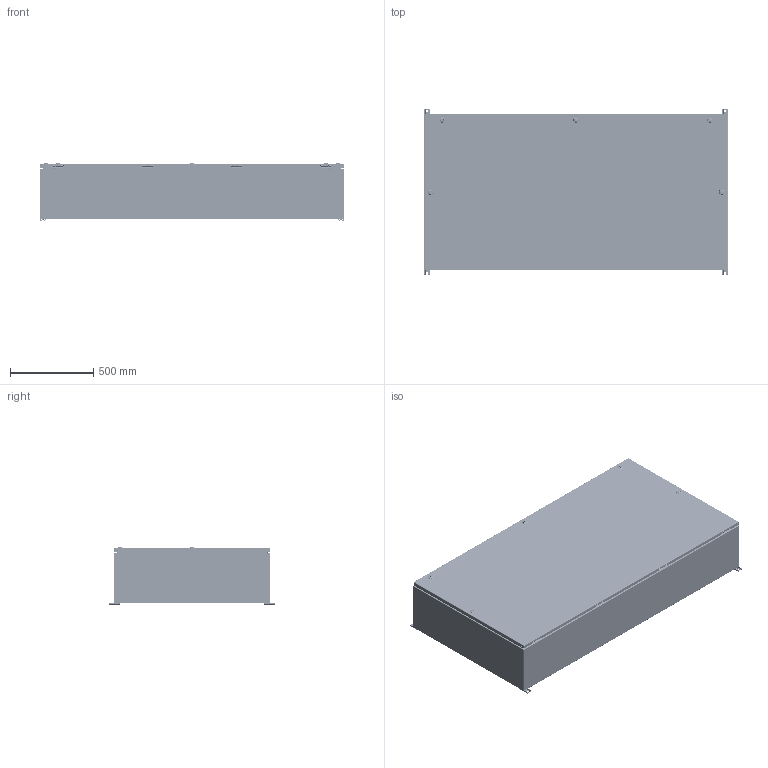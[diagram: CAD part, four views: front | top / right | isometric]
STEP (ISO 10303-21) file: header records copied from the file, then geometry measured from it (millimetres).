
FILE_DESCRIPTION(/* description */ ('1412BTSSCU 2000A - 4 Wires x 72" Assembly'),/* implementation_level */ '2;1');
FILE_NAME(/* name */ 'C:\Vault_Workspace\Inventor_Dwg\BoxCad\Result\1412BTSSCU062004DT\e-mail\3D\1412BTSSCU062004DT.stp',/* time_stamp */ '2022-11-04T15:20:29-04:00',/* author */ ('BoxCad'),/* organization */ (''),/* preprocessor_version */ 'ST-DEVELOPER v18.1',/* originating_system */ 'Autodesk Inventor 2020',/* authorisation */ '');
FILE_SCHEMA (('AUTOMOTIVE_DESIGN { 1 0 10303 214 3 1 1 }'));
Products named in the file (53): 1412BTSSCU062004DT; 1412BTSSCU062004DTB; 1412BTSSCU062004DTB-P; STK-Q-16020; 1412BTSSCU062004DTC; 1412BTSSCU062004DTC-P; 1412BTSSCU062004DTG; STK-Q-16095; STK-K-09850-1; STK-Q-33019; STK-Q-90111; STK-Q-40096; STK-Q-63412; STK-S-00100; STK-A-880SCQ4-SLSS6-1; STK-A-880SCQ4-SLSS6-2; STK-A-880SCQ4-SLSS6-3; STK-A-880SCQ4-SLSS6-4; STK-A-880SCQ4-SLSS6-5; STK-Q-70621; STK-Q-70631; STK-Q-78145; STK-Q-03200; STK-Q-78125; STK-Q-90390; STK-Q-78160; STK-Q-78141; 1412BTSSCU062004DTIP1; 1412BTSSCU062004DTIP1-P; STK-P-02401S; STK-Q-07610; STK-A-67400; STK-Q-67400; STK-G-22300; STK-Q-67420; STK-Q-40800; STK-Q-67430; STK-Q-07310; 1412BTSSCU062004DTBAR1-P; 1412BTSSCU062004DTBAR2-P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
Assembly tree (144 placements, depth 4):
  1412BTSSCU062004DT
    1412BTSSCU062004DTB
      1412BTSSCU062004DTB-P
      STK-Q-16095
      STK-Q-16020  x8
      STK-S-00100
    1412BTSSCU062004DTC
      1412BTSSCU062004DTC-P
      1412BTSSCU062004DTG
      STK-Q-16095
      STK-K-09850-1  x4
        STK-Q-33019
        STK-Q-90111
        STK-Q-40096
        STK-Q-63412
      STK-S-00100
      STK-A-880SCQ4-SLSS6-1
        STK-Q-70621
        STK-Q-70631
        STK-Q-78145
        STK-Q-03200
        STK-Q-78125
        STK-Q-90390
        STK-Q-78160
        STK-Q-78141
      STK-A-880SCQ4-SLSS6-2
        STK-Q-70621
        STK-Q-70631
        STK-Q-78145
        STK-Q-03200
        STK-Q-78125
        STK-Q-90390
        STK-Q-78160
        STK-Q-78141
      STK-A-880SCQ4-SLSS6-3
        STK-Q-70621
        STK-Q-70631
        STK-Q-78145
        STK-Q-03200
        STK-Q-78125
        STK-Q-90390
        STK-Q-78160
        STK-Q-78141
      STK-A-880SCQ4-SLSS6-4
        STK-Q-70621
        STK-Q-70631
        STK-Q-78145
        STK-Q-03200
        STK-Q-78125
        STK-Q-90390
        STK-Q-78160
        STK-Q-78141
      STK-A-880SCQ4-SLSS6-5
        STK-Q-70621
        STK-Q-70631
        STK-Q-78145
        STK-Q-03200
        STK-Q-78125
        STK-Q-90390
        STK-Q-78160
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Bounding box: 1828.8 x 996.95 x 345 mm (x, y, z)
Volume: 21464618.5 mm3; surface area: 15327852 mm2
Topology: 216 solids, 216 shells, 32174 faces, 84667 edges, 52950 vertices
Faces by surface type: plane 11967, bspline 9249, cylinder 7738, torus 2203, sphere 650, cone 367
Full cylindrical faces by diameter (mm): 0.75 x10, 0.762 x10, 1 x16, 1.1 x16, 3.2 x8, 4.5 x48, 4.85 x32, 4.917 x4, 4.95 x8, 5.1 x55, 5.105 x32, 5.9 x94, 6.65 x12, 6.655 x8, 6.85 x72, 7.366 x8, 7.8 x492, 8 x34, 8.25 x24, 8.6 x12, 9.6 x5, 9.7 x48, 9.906 x4, 10 x9, 10.312 x2, 11.5 x24, 12 x16, 12.7 x2, 12.8 x5, 13 x5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
Entity records: 208530 total; most frequent: CARTESIAN_POINT 84316, ORIENTED_EDGE 27878, DIRECTION 21381, EDGE_CURVE 13939, VERTEX_POINT 8905, AXIS2_PLACEMENT_3D 7343, LINE 6695, VECTOR 6695
